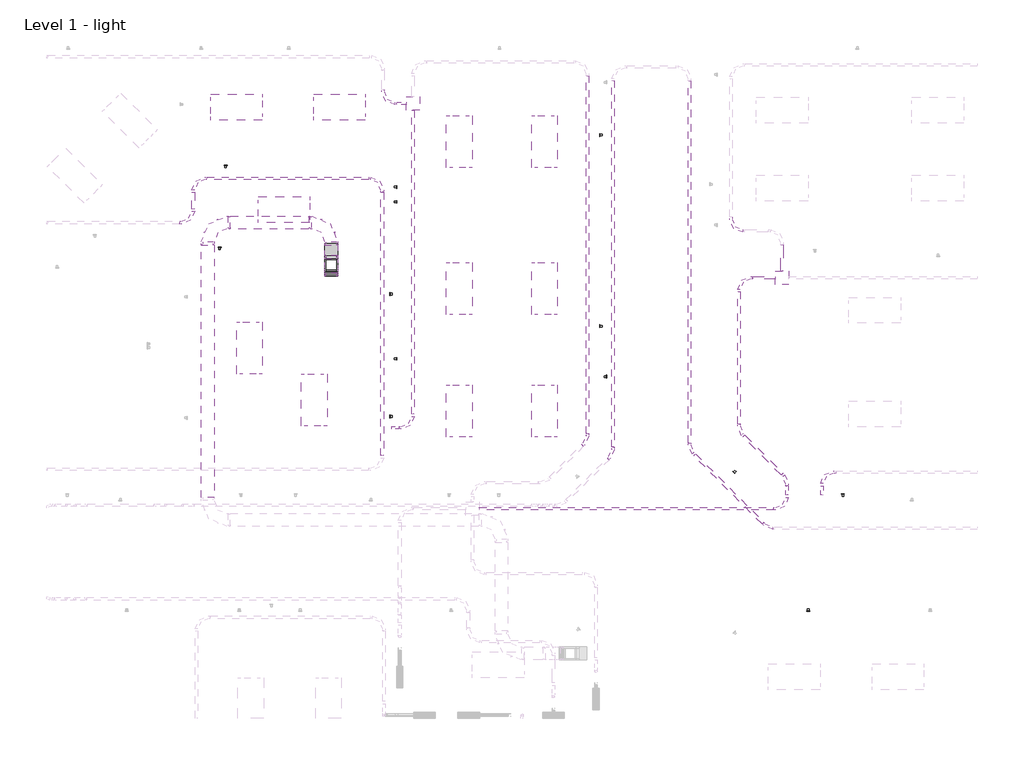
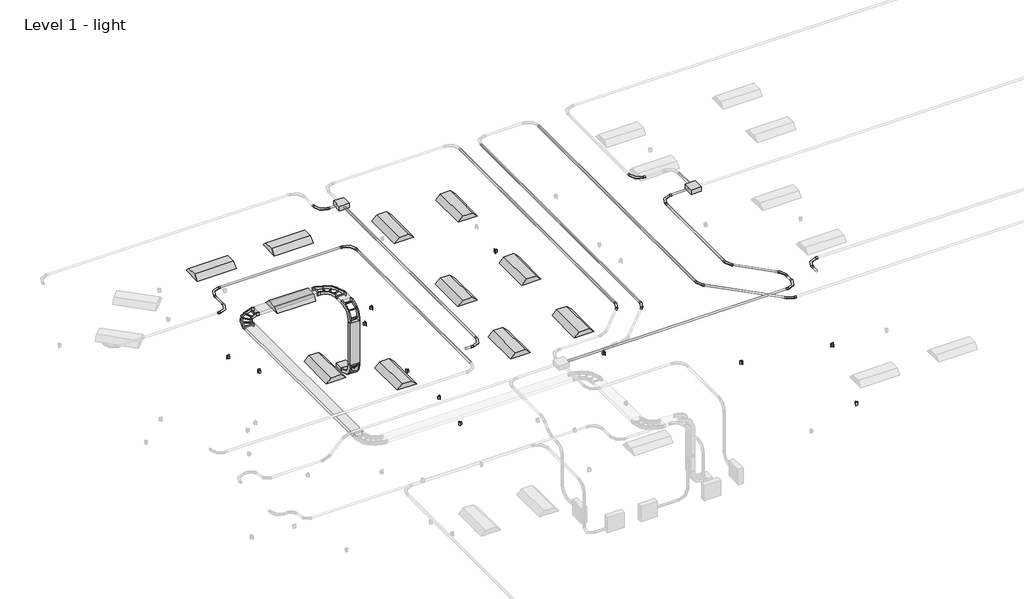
# One storey, part 4 of 5: 22 cable carrier segments, 21 cable carrier fittings, 11 light fixtures, 11 proxies, 2 switching devices.
"""IFC4 building model written with IfcOpenShell, lengths in millimetres."""

from ifc_helpers import new_model, si_unit, point, frame, frame_2d, origin, place, context, project, spatial, polyline, circle_curve, trimmed, segment, composite_curve, outline, extrude, transform, mapped, element, save
from components import m_duplex_receptacle_standard_10251bba, m_conduit_elbow_without_fittings_rnc_standard_30e86c5b, m_conduit_elbow_without_fittings_rnc_standard_89ecd00f, m_conduit_junction_box_cross_pvc_standard_3c8550d1, m_ladder_horizontal_bend_standard_b7bc1a9d, m_ladder_vertical_inside_bend_standard_9c9c70af, m_ladder_vertical_outside_bend_standard_a116f5cc, m_plain_recessed_lighting_fixture_c7d3eefa

model = new_model("IFC4")

# Units and contexts
model_context = context("Model", 3, world=origin())
ifc_project = project(units=[si_unit("LENGTHUNIT", "METRE", prefix="MILLI")], contexts=[model_context])

# Site, building, storey
site = spatial("IfcSite", under=ifc_project)
building = spatial("IfcBuilding", under=site)
storey = spatial("IfcBuildingStorey", under=building, Name="Level 1 - light", Elevation=0.0)

# Proxies
placement = place(None, origin())
m_duplex_receptacle_standard_shape = m_duplex_receptacle_standard_10251bba(model_context)
element("IfcBuildingElementProxy", 1, Name="M_Duplex Receptacle : Standard", ObjectType="M_Duplex Receptacle : Standard", at=placement, inside=storey, context=model_context, shape_type="MappedRepresentation", body=[
    mapped(m_duplex_receptacle_standard_shape, transform((-15184.0544192, 14525.4737109, 460.0), x_axis=(-1.0, 0.0, 0.0), y_axis=(0.0, 0.0, 1.0), z_axis=(0.0, 1.0, 0.0))),
])
element("IfcBuildingElementProxy", 2, Name="M_Duplex Receptacle : Standard", ObjectType="M_Duplex Receptacle : Standard", at=placement, inside=storey, context=model_context, shape_type="MappedRepresentation", body=[
    mapped(m_duplex_receptacle_standard_shape, transform((-11319.912755, 11502.323471, 460.0), x_axis=(0.0, -1.0, 0.0), y_axis=(0.0, 0.0, 1.0), z_axis=(-1.0, 0.0, 0.0))),
])
element("IfcBuildingElementProxy", 3, Name="M_Duplex Receptacle : Standard", ObjectType="M_Duplex Receptacle : Standard", at=placement, inside=storey, context=model_context, shape_type="MappedRepresentation", body=[
    mapped(m_duplex_receptacle_standard_shape, transform((-11319.912755, 8625.0169879, 460.0), x_axis=(0.0, -1.0, 0.0), y_axis=(0.0, 0.0, 1.0), z_axis=(-1.0, 0.0, 0.0))),
])
element("IfcBuildingElementProxy", 4, Name="M_Duplex Receptacle : Standard", ObjectType="M_Duplex Receptacle : Standard", at=placement, inside=storey, context=model_context, shape_type="MappedRepresentation", body=[
    mapped(m_duplex_receptacle_standard_shape, transform((-6392.312755, 15242.2575797, 460.0), x_axis=(0.0, -1.0, 0.0), y_axis=(0.0, 0.0, 1.0), z_axis=(-1.0, 0.0, 0.0))),
])
element("IfcBuildingElementProxy", 5, Name="M_Duplex Receptacle : Standard", ObjectType="M_Duplex Receptacle : Standard", at=placement, inside=storey, context=model_context, shape_type="MappedRepresentation", body=[
    mapped(m_duplex_receptacle_standard_shape, transform((-6392.312755, 10747.4935105, 460.0), x_axis=(0.0, -1.0, 0.0), y_axis=(0.0, 0.0, 1.0), z_axis=(-1.0, 0.0, 0.0))),
])
element("IfcBuildingElementProxy", 6, Name="M_Duplex Receptacle : Standard", ObjectType="M_Duplex Receptacle : Standard", at=placement, inside=storey, context=model_context, shape_type="MappedRepresentation", body=[
    mapped(m_duplex_receptacle_standard_shape, transform((-11164.337755, 9982.4272859, 460.0), x_axis=(0.0, 1.0, 0.0), y_axis=(0.0, 0.0, 1.0), z_axis=(1.0, 0.0, 0.0))),
])
element("IfcBuildingElementProxy", 7, Name="M_Duplex Receptacle : Standard", ObjectType="M_Duplex Receptacle : Standard", at=placement, inside=storey, context=model_context, shape_type="MappedRepresentation", body=[
    mapped(m_duplex_receptacle_standard_shape, transform((-11164.337755, 14021.3696282, 460.0), x_axis=(0.0, 1.0, 0.0), y_axis=(0.0, 0.0, 1.0), z_axis=(1.0, 0.0, 0.0))),
])
element("IfcBuildingElementProxy", 8, Name="M_Duplex Receptacle : Standard", ObjectType="M_Duplex Receptacle : Standard", at=placement, inside=storey, context=model_context, shape_type="MappedRepresentation", body=[
    mapped(m_duplex_receptacle_standard_shape, transform((-678.8156811, 6803.8737109, 460.0), x_axis=(-1.0, 0.0, 0.0), y_axis=(0.0, 0.0, 1.0), z_axis=(0.0, 1.0, 0.0))),
])
element("IfcBuildingElementProxy", 9, Name="M_Duplex Receptacle : Standard", ObjectType="M_Duplex Receptacle : Standard", at=placement, inside=storey, context=model_context, shape_type="MappedRepresentation", body=[
    mapped(m_duplex_receptacle_standard_shape, transform((-3240.399451, 7309.5604069, 460.0), x_axis=(0.7071067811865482, -0.7071067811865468, 0.0), y_axis=(0.0, 0.0, 1.0), z_axis=(-0.7071067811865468, -0.7071067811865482, 0.0))),
])
element("IfcBuildingElementProxy", 10, Name="M_Duplex Receptacle : Standard", ObjectType="M_Duplex Receptacle : Standard", at=placement, inside=storey, context=model_context, shape_type="MappedRepresentation", body=[
    mapped(m_duplex_receptacle_standard_shape, transform((-6236.737755, 9562.7738632, 460.0), x_axis=(0.0, 1.0, 0.0), y_axis=(0.0, 0.0, 1.0), z_axis=(1.0, 0.0, 0.0))),
])
element("IfcBuildingElementProxy", 11, Name="M_Duplex Receptacle : Standard", ObjectType="M_Duplex Receptacle : Standard", at=placement, inside=storey, context=model_context, shape_type="MappedRepresentation", body=[
    mapped(m_duplex_receptacle_standard_shape, transform((-1493.5466318, 4054.3237109, 460.0), x_axis=(1.0, 0.0, 0.0), y_axis=(0.0, 0.0, 1.0), z_axis=(0.0, -1.0, 0.0))),
])

# Cable carrier fittings
m_conduit_elbow_without_fittings_rnc_standard_shape = m_conduit_elbow_without_fittings_rnc_standard_30e86c5b(model_context)
element("IfcCableCarrierFitting", 12, ObjectType="M_Conduit Elbow - without Fittings - RNC : Standard", at=placement, inside=storey, context=model_context, shape_type="MappedRepresentation", body=[
    mapped(m_conduit_elbow_without_fittings_rnc_standard_shape, transform((-6682.4372396, 8057.7027917, 3100.0), x_axis=(0.7071067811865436, 0.7071067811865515, 0.0), y_axis=(-0.7071067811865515, 0.7071067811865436, 0.0), z_axis=(0.0, 0.0, 1.0))),
])
element("IfcCableCarrierFitting", 13, ObjectType="M_Conduit Elbow - without Fittings - RNC : Standard", at=placement, inside=storey, context=model_context, shape_type="MappedRepresentation", body=[
    mapped(m_conduit_elbow_without_fittings_rnc_standard_shape, transform((-1991.3, 7153.4116522, 3100.0), x_axis=(0.0, 1.0, 0.0), y_axis=(-1.0, 0.0, 0.0), z_axis=(0.0, 0.0, 1.0))),
])
element("IfcCableCarrierFitting", 14, ObjectType="M_Conduit Elbow - without Fittings - RNC : Standard", at=placement, inside=storey, context=model_context, shape_type="MappedRepresentation", body=[
    mapped(m_conduit_elbow_without_fittings_rnc_standard_shape, transform((-3122.6708499, 8284.7825021, 3100.0), x_axis=(0.0, -1.0, 0.0), y_axis=(1.0, 0.0, 0.0), z_axis=(0.0, 0.0, 1.0))),
])
element("IfcCableCarrierFitting", 15, ObjectType="M_Conduit Elbow - without Fittings - RNC : Standard", at=placement, inside=storey, context=model_context, shape_type="MappedRepresentation", body=[
    mapped(m_conduit_elbow_without_fittings_rnc_standard_shape, transform((-6079.718472, 7740.1344224, 3100.0), x_axis=(0.7071067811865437, 0.7071067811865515, 0.0), y_axis=(-0.7071067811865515, 0.7071067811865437, 0.0), z_axis=(0.0, 0.0, 1.0))),
])
element("IfcCableCarrierFitting", 16, ObjectType="M_Conduit Elbow - without Fittings - RNC : Standard", at=placement, inside=storey, context=model_context, shape_type="MappedRepresentation", body=[
    mapped(m_conduit_elbow_without_fittings_rnc_standard_shape, transform((-4279.718472, 7840.1344224, 3100.0), x_axis=(0.0, -1.0, 0.0), y_axis=(1.0, 0.0, 0.0), z_axis=(0.0, 0.0, 1.0))),
])
element("IfcCableCarrierFitting", 17, ObjectType="M_Conduit Elbow - without Fittings - RNC : Standard", at=placement, inside=storey, context=model_context, shape_type="MappedRepresentation", body=[
    mapped(m_conduit_elbow_without_fittings_rnc_standard_shape, transform((-2441.2408409, 6001.6567913, 3100.0), x_axis=(0.7071067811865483, -0.7071067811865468, 0.0), y_axis=(0.7071067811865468, 0.7071067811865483, 0.0), z_axis=(0.0, 0.0, 1.0))),
])
m_conduit_elbow_without_fittings_rnc_standard_2_shape = m_conduit_elbow_without_fittings_rnc_standard_89ecd00f(model_context)
element("IfcCableCarrierFitting", 18, ObjectType="M_Conduit Elbow - without Fittings - RNC : Standard", at=placement, inside=storey, context=model_context, shape_type="MappedRepresentation", body=[
    mapped(m_conduit_elbow_without_fittings_rnc_standard_2_shape, transform((-10782.4372396, 8357.7027917, 3100.0), x_axis=(1.0, 0.0, 0.0), y_axis=(0.0, 1.0, 0.0), z_axis=(0.0, 0.0, 1.0))),
])
element("IfcCableCarrierFitting", 19, ObjectType="M_Conduit Elbow - without Fittings - RNC : Standard", at=placement, inside=storey, context=model_context, shape_type="MappedRepresentation", body=[
    mapped(m_conduit_elbow_without_fittings_rnc_standard_2_shape, transform((-1991.3, 6453.4116522, 3100.0), x_axis=(1.0, 0.0, 0.0), y_axis=(0.0, 1.0, 0.0), z_axis=(0.0, 0.0, 1.0))),
])
element("IfcCableCarrierFitting", 20, ObjectType="M_Conduit Elbow - without Fittings - RNC : Standard", at=placement, inside=storey, context=model_context, shape_type="MappedRepresentation", body=[
    mapped(m_conduit_elbow_without_fittings_rnc_standard_2_shape, transform((-1175.1151652, 7317.4587363, 3100.0), x_axis=(-1.0, 0.0, 0.0), y_axis=(0.0, -1.0, 0.0), z_axis=(0.0, 0.0, 1.0))),
])
element("IfcCableCarrierFitting", 21, ObjectType="M_Conduit Elbow - without Fittings - RNC : Standard", at=placement, inside=storey, context=model_context, shape_type="MappedRepresentation", body=[
    mapped(m_conduit_elbow_without_fittings_rnc_standard_2_shape, transform((-3122.6708499, 11884.7825021, 3100.0), x_axis=(-1.0, 0.0, 0.0), y_axis=(0.0, -1.0, 0.0), z_axis=(0.0, 0.0, 1.0))),
])
element("IfcCableCarrierFitting", 22, ObjectType="M_Conduit Elbow - without Fittings - RNC : Standard", at=placement, inside=storey, context=model_context, shape_type="MappedRepresentation", body=[
    mapped(m_conduit_elbow_without_fittings_rnc_standard_2_shape, transform((-3306.5826874, 12984.7825021, 3100.0), x_axis=(0.0, -1.0, 0.0), y_axis=(1.0, 0.0, 0.0), z_axis=(0.0, 0.0, 1.0))),
])
element("IfcCableCarrierFitting", 23, ObjectType="M_Conduit Elbow - without Fittings - RNC : Standard", at=placement, inside=storey, context=model_context, shape_type="MappedRepresentation", body=[
    mapped(m_conduit_elbow_without_fittings_rnc_standard_2_shape, transform((-11482.4372396, 15983.2800092, 3100.0), x_axis=(0.0, -1.0, 0.0), y_axis=(1.0, 0.0, 0.0), z_axis=(0.0, 0.0, 1.0))),
])
element("IfcCableCarrierFitting", 24, ObjectType="M_Conduit Elbow - without Fittings - RNC : Standard", at=placement, inside=storey, context=model_context, shape_type="MappedRepresentation", body=[
    mapped(m_conduit_elbow_without_fittings_rnc_standard_2_shape, transform((-15942.4372396, 13183.2800092, 3100.0), x_axis=(1.0, 0.0, 0.0), y_axis=(0.0, 1.0, 0.0), z_axis=(0.0, 0.0, 1.0))),
])
element("IfcCableCarrierFitting", 25, ObjectType="M_Conduit Elbow - without Fittings - RNC : Standard", at=placement, inside=storey, context=model_context, shape_type="MappedRepresentation", body=[
    mapped(m_conduit_elbow_without_fittings_rnc_standard_2_shape, transform((-15942.4372396, 14218.3126046, 3100.0), x_axis=(-1.0, 0.0, 0.0), y_axis=(0.0, -1.0, 0.0), z_axis=(0.0, 0.0, 1.0))),
])
element("IfcCableCarrierFitting", 26, ObjectType="M_Conduit Elbow - without Fittings - RNC : Standard", at=placement, inside=storey, context=model_context, shape_type="MappedRepresentation", body=[
    mapped(m_conduit_elbow_without_fittings_rnc_standard_2_shape, transform((-11502.4372396, 14218.3126046, 3100.0), x_axis=(0.0, 1.0, 0.0), y_axis=(-1.0, 0.0, 0.0), z_axis=(0.0, 0.0, 1.0))),
])
m_conduit_junction_box_cross_pvc_standard_shape = m_conduit_junction_box_cross_pvc_standard_3c8550d1(model_context)
element("IfcCableCarrierFitting", 27, ObjectType="M_Conduit Junction Box - Tee - PVC : Standard", at=placement, inside=storey, context=model_context, shape_type="MappedRepresentation", body=[
    mapped(m_conduit_junction_box_cross_pvc_standard_shape, transform((-2106.5826874, 11884.7825021, 3100.0), x_axis=(-1.0, 0.0, 0.0), y_axis=(0.0, -1.0, 0.0), z_axis=(0.0, 0.0, 1.0))),
])
element("IfcCableCarrierFitting", 28, ObjectType="M_Conduit Junction Box - Tee - PVC : Standard", at=placement, inside=storey, context=model_context, shape_type="MappedRepresentation", body=[
    mapped(m_conduit_junction_box_cross_pvc_standard_shape, transform((-10782.4372396, 15983.2800092, 3100.0), x_axis=(0.0, -1.0, 0.0), y_axis=(1.0, 0.0, 0.0), z_axis=(0.0, 0.0, 1.0))),
])
m_ladder_horizontal_bend_standard_shape = m_ladder_horizontal_bend_standard_b7bc1a9d(model_context)
element("IfcCableCarrierFitting", 29, ObjectType="M_Ladder Horizontal Bend : Standard", at=placement, inside=storey, context=model_context, shape_type="MappedRepresentation", body=[
    mapped(m_ladder_horizontal_bend_standard_shape, transform((-15600.0321645, 13184.7825021, 2750.0), x_axis=(-1.0, 0.0, 0.0), y_axis=(0.0, -1.0, 0.0), z_axis=(0.0, 0.0, 1.0))),
])
element("IfcCableCarrierFitting", 30, ObjectType="M_Ladder Horizontal Bend : Standard", at=placement, inside=storey, context=model_context, shape_type="MappedRepresentation", body=[
    mapped(m_ladder_horizontal_bend_standard_shape, transform((-12700.0321645, 13184.7825021, 2750.0), x_axis=(0.0, 1.0, 0.0), y_axis=(-1.0, 0.0, 0.0), z_axis=(0.0, 0.0, 1.0))),
])
m_ladder_vertical_inside_bend_standard_shape = m_ladder_vertical_inside_bend_standard_9c9c70af(model_context)
element("IfcCableCarrierFitting", 31, ObjectType="M_Ladder Vertical Inside Bend : Standard", at=placement, inside=storey, context=model_context, shape_type="MappedRepresentation", body=[
    mapped(m_ladder_vertical_inside_bend_standard_shape, transform((-12700.0321645, 11972.3825901, 500.0), x_axis=(0.0, 0.0, -1.0), y_axis=(0.0, 1.0, 0.0), z_axis=(1.0, 0.0, 0.0))),
])
m_ladder_vertical_outside_bend_standard_shape = m_ladder_vertical_outside_bend_standard_a116f5cc(model_context)
element("IfcCableCarrierFitting", 32, ObjectType="M_Ladder Vertical Outside Bend : Standard", at=placement, inside=storey, context=model_context, shape_type="MappedRepresentation", body=[
    mapped(m_ladder_vertical_outside_bend_standard_shape, transform((-12700.0321645, 11972.3825901, 2750.0), x_axis=(0.0, -1.0, 0.0), y_axis=(0.0, 0.0, -1.0), z_axis=(1.0, 0.0, 0.0))),
])

# Cable carrier segments
element("IfcCableCarrierSegment", 33, ObjectType="Rigid Nonmetallic Conduit (RNC Sch 40)", at=placement, inside=storey, context=model_context, shape_type="SweptSolid", body=[
    extrude(outline(composite_curve([segment(trimmed(circle_curve(frame_2d((3100.0, -6682.4372396)), 30.165), [point((3100.0, -6652.2722396))], [point((3130.165, -6682.4372396))], False, "CARTESIAN"), True, "CONTINUOUS"), segment(trimmed(circle_curve(frame_2d((3100.0, -6682.4372396)), 30.165), [point((3130.165, -6682.4372396))], [point((3100.0, -6712.6022396))], False, "CARTESIAN"), True, "CONTINUOUS"), segment(trimmed(circle_curve(frame_2d((3100.0, -6682.4372396)), 30.165), [point((3100.0, -6712.6022396))], [point((3069.835, -6682.4372396))], False, "CARTESIAN"), True, "CONTINUOUS"), segment(trimmed(circle_curve(frame_2d((3100.0, -6682.4372396)), 30.165), [point((3069.835, -6682.4372396))], [point((3100.0, -6652.2722396))], False, "CARTESIAN"), True, "CONTINUOUS")], self_intersect=False)), frame((0.0, 8220.9452053, 0.0), z_axis=(0.0, 1.0, 0.0), x_axis=(0.0, 0.0, 1.0)), (0.0, 0.0, 1.0), 8414.4975864),
])
element("IfcCableCarrierSegment", 34, ObjectType="Rigid Nonmetallic Conduit (RNC Sch 40)", at=placement, inside=storey, context=model_context, shape_type="SweptSolid", body=[
    extrude(outline(composite_curve([segment(trimmed(circle_curve(frame_2d((3100.0, -10782.4372396)), 30.165), [point((3100.0, -10812.6022396))], [point((3069.835, -10782.4372396))], False, "CARTESIAN"), True, "CONTINUOUS"), segment(trimmed(circle_curve(frame_2d((3100.0, -10782.4372396)), 30.165), [point((3069.835, -10782.4372396))], [point((3100.0, -10752.2722396))], False, "CARTESIAN"), True, "CONTINUOUS"), segment(trimmed(circle_curve(frame_2d((3100.0, -10782.4372396)), 30.165), [point((3100.0, -10752.2722396))], [point((3130.165, -10782.4372396))], False, "CARTESIAN"), True, "CONTINUOUS"), segment(trimmed(circle_curve(frame_2d((3100.0, -10782.4372396)), 30.165), [point((3130.165, -10782.4372396))], [point((3100.0, -10812.6022396))], False, "CARTESIAN"), True, "CONTINUOUS")], self_intersect=False)), frame((0.0, 8679.9627917, 0.0), z_axis=(0.0, 1.0, 0.0), x_axis=(0.0, 0.0, 1.0)), (0.0, 0.0, 1.0), 7144.3172176),
])
element("IfcCableCarrierSegment", 35, ObjectType="Rigid Nonmetallic Conduit (RNC Sch 40)", at=placement, inside=storey, context=model_context, shape_type="SweptSolid", body=[
    extrude(outline(composite_curve([segment(trimmed(circle_curve(frame_2d((8357.7027917, 3100.0)), 30.165), [point((8387.8677917, 3100.0))], [point((8357.7027917, 3069.835))], False, "CARTESIAN"), True, "CONTINUOUS"), segment(trimmed(circle_curve(frame_2d((8357.7027917, 3100.0)), 30.165), [point((8357.7027917, 3069.835))], [point((8327.5377917, 3100.0))], False, "CARTESIAN"), True, "CONTINUOUS"), segment(trimmed(circle_curve(frame_2d((8357.7027917, 3100.0)), 30.165), [point((8327.5377917, 3100.0))], [point((8357.7027917, 3130.165))], False, "CARTESIAN"), True, "CONTINUOUS"), segment(trimmed(circle_curve(frame_2d((8357.7027917, 3100.0)), 30.165), [point((8357.7027917, 3130.165))], [point((8387.8677917, 3100.0))], False, "CARTESIAN"), True, "CONTINUOUS")], self_intersect=False)), frame((-11282.4372396, 0.0, 0.0), z_axis=(1.0, 0.0, 0.0), x_axis=(0.0, 1.0, 0.0)), (0.0, 0.0, 1.0), 177.74),
])
element("IfcCableCarrierSegment", 36, ObjectType="Rigid Nonmetallic Conduit (RNC Sch 40)", at=placement, inside=storey, context=model_context, shape_type="SweptSolid", body=[
    extrude(outline(composite_curve([segment(trimmed(circle_curve(frame_2d((6453.4116522, 3100.0)), 30.165), [point((6423.2466522, 3100.0))], [point((6453.4116522, 3130.165))], False, "CARTESIAN"), True, "CONTINUOUS"), segment(trimmed(circle_curve(frame_2d((6453.4116522, 3100.0)), 30.165), [point((6453.4116522, 3130.165))], [point((6483.5766522, 3100.0))], False, "CARTESIAN"), True, "CONTINUOUS"), segment(trimmed(circle_curve(frame_2d((6453.4116522, 3100.0)), 30.165), [point((6483.5766522, 3100.0))], [point((6453.4116522, 3069.835))], False, "CARTESIAN"), True, "CONTINUOUS"), segment(trimmed(circle_curve(frame_2d((6453.4116522, 3100.0)), 30.165), [point((6453.4116522, 3069.835))], [point((6423.2466522, 3100.0))], False, "CARTESIAN"), True, "CONTINUOUS")], self_intersect=False)), frame((-9220.2, 0.0, 0.0), z_axis=(1.0, 0.0, 0.0), x_axis=(0.0, 1.0, 0.0)), (0.0, 0.0, 1.0), 6906.64),
])
element("IfcCableCarrierSegment", 37, ObjectType="Rigid Nonmetallic Conduit (RNC Sch 40)", at=placement, inside=storey, context=model_context, shape_type="SweptSolid", body=[
    extrude(outline(composite_curve([segment(trimmed(circle_curve(frame_2d((3100.0, -1991.3)), 30.165), [point((3100.0, -1961.135))], [point((3130.165, -1991.3))], False, "CARTESIAN"), True, "CONTINUOUS"), segment(trimmed(circle_curve(frame_2d((3100.0, -1991.3)), 30.165), [point((3130.165, -1991.3))], [point((3100.0, -2021.465))], False, "CARTESIAN"), True, "CONTINUOUS"), segment(trimmed(circle_curve(frame_2d((3100.0, -1991.3)), 30.165), [point((3100.0, -2021.465))], [point((3069.835, -1991.3))], False, "CARTESIAN"), True, "CONTINUOUS"), segment(trimmed(circle_curve(frame_2d((3100.0, -1991.3)), 30.165), [point((3069.835, -1991.3))], [point((3100.0, -1961.135))], False, "CARTESIAN"), True, "CONTINUOUS")], self_intersect=False)), frame((0.0, 6775.6716522, 0.0), z_axis=(0.0, 1.0, 0.0), x_axis=(0.0, 0.0, 1.0)), (0.0, 0.0, 1.0), 214.4975864),
])
element("IfcCableCarrierSegment", 38, ObjectType="Rigid Nonmetallic Conduit (RNC Sch 40)", at=placement, inside=storey, context=model_context, shape_type="SweptSolid", body=[
    extrude(outline(composite_curve([segment(trimmed(circle_curve(frame_2d((0.0, 30.165)), 30.165), [point((30.1650001, 30.165))], [point((0.0, 0.0))], False, "CARTESIAN"), True, "CONTINUOUS"), segment(trimmed(circle_curve(frame_2d((0.0, 30.165)), 30.165), [point((0.0, 0.0))], [point((-30.1649999, 30.165))], False, "CARTESIAN"), True, "CONTINUOUS"), segment(trimmed(circle_curve(frame_2d((0.0, 30.165)), 30.165), [point((-30.1649999, 30.165))], [point((0.0, 60.33))], False, "CARTESIAN"), True, "CONTINUOUS"), segment(trimmed(circle_curve(frame_2d((0.0, 30.165)), 30.165), [point((0.0, 60.33))], [point((30.1650001, 30.165))], False, "CARTESIAN"), True, "CONTINUOUS")], self_intersect=False)), frame((-2106.7298177, 7268.8414698, 3130.165), z_axis=(-0.7071067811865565, 0.7071067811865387, 0.0), x_axis=(0.7071067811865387, 0.7071067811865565, 0.0)), (0.0, 0.0, 1.0), 1273.5151727),
])
element("IfcCableCarrierSegment", 39, ObjectType="Rigid Nonmetallic Conduit (RNC Sch 40)", at=placement, inside=storey, context=model_context, shape_type="SweptSolid", body=[
    extrude(outline(composite_curve([segment(trimmed(circle_curve(frame_2d((3100.0, -3122.6708499)), 30.165), [point((3100.0, -3092.5058499))], [point((3130.165, -3122.6708499))], False, "CARTESIAN"), True, "CONTINUOUS"), segment(trimmed(circle_curve(frame_2d((3100.0, -3122.6708499)), 30.165), [point((3130.165, -3122.6708499))], [point((3100.0, -3152.8358499))], False, "CARTESIAN"), True, "CONTINUOUS"), segment(trimmed(circle_curve(frame_2d((3100.0, -3122.6708499)), 30.165), [point((3100.0, -3152.8358499))], [point((3069.835, -3122.6708499))], False, "CARTESIAN"), True, "CONTINUOUS"), segment(trimmed(circle_curve(frame_2d((3100.0, -3122.6708499)), 30.165), [point((3069.835, -3122.6708499))], [point((3100.0, -3092.5058499))], False, "CARTESIAN"), True, "CONTINUOUS")], self_intersect=False)), frame((0.0, 8448.0249157, 0.0), z_axis=(0.0, 1.0, 0.0), x_axis=(0.0, 0.0, 1.0)), (0.0, 0.0, 1.0), 3114.4975864),
])
element("IfcCableCarrierSegment", 40, ObjectType="Rigid Nonmetallic Conduit (RNC Sch 40)", at=placement, inside=storey, context=model_context, shape_type="SweptSolid", body=[
    extrude(outline(composite_curve([segment(trimmed(circle_curve(frame_2d((11884.7825021, 3100.0)), 30.165), [point((11914.9475021, 3100.0))], [point((11884.7825021, 3069.835))], False, "CARTESIAN"), True, "CONTINUOUS"), segment(trimmed(circle_curve(frame_2d((11884.7825021, 3100.0)), 30.165), [point((11884.7825021, 3069.835))], [point((11854.6175021, 3100.0))], False, "CARTESIAN"), True, "CONTINUOUS"), segment(trimmed(circle_curve(frame_2d((11884.7825021, 3100.0)), 30.165), [point((11854.6175021, 3100.0))], [point((11884.7825021, 3130.165))], False, "CARTESIAN"), True, "CONTINUOUS"), segment(trimmed(circle_curve(frame_2d((11884.7825021, 3100.0)), 30.165), [point((11884.7825021, 3130.165))], [point((11914.9475021, 3100.0))], False, "CARTESIAN"), True, "CONTINUOUS")], self_intersect=False)), frame((-2800.4108499, 0.0, 0.0), z_axis=(1.0, 0.0, 0.0), x_axis=(0.0, 1.0, 0.0)), (0.0, 0.0, 1.0), 534.8281625),
])
element("IfcCableCarrierSegment", 41, ObjectType="Rigid Nonmetallic Conduit (RNC Sch 40)", at=placement, inside=storey, context=model_context, shape_type="SweptSolid", body=[
    extrude(outline(composite_curve([segment(trimmed(circle_curve(frame_2d((3100.0, -1175.1151652)), 30.165), [point((3100.0, -1205.2801652))], [point((3069.835, -1175.1151652))], False, "CARTESIAN"), True, "CONTINUOUS"), segment(trimmed(circle_curve(frame_2d((3100.0, -1175.1151652)), 30.165), [point((3069.835, -1175.1151652))], [point((3100.0, -1144.9501652))], False, "CARTESIAN"), True, "CONTINUOUS"), segment(trimmed(circle_curve(frame_2d((3100.0, -1175.1151652)), 30.165), [point((3100.0, -1144.9501652))], [point((3130.165, -1175.1151652))], False, "CARTESIAN"), True, "CONTINUOUS"), segment(trimmed(circle_curve(frame_2d((3100.0, -1175.1151652)), 30.165), [point((3130.165, -1175.1151652))], [point((3100.0, -1205.2801652))], False, "CARTESIAN"), True, "CONTINUOUS")], self_intersect=False)), frame((0.0, 6777.4587363, 0.0), z_axis=(0.0, 1.0, 0.0), x_axis=(0.0, 0.0, 1.0)), (0.0, 0.0, 1.0), 217.74),
])
element("IfcCableCarrierSegment", 42, ObjectType="Rigid Nonmetallic Conduit (RNC Sch 40)", at=placement, inside=storey, context=model_context, shape_type="SweptSolid", body=[
    extrude(outline(composite_curve([segment(trimmed(circle_curve(frame_2d((3100.0, -2106.5826874)), 30.165), [point((3100.0, -2076.4176874))], [point((3130.165, -2106.5826874))], False, "CARTESIAN"), True, "CONTINUOUS"), segment(trimmed(circle_curve(frame_2d((3100.0, -2106.5826874)), 30.165), [point((3130.165, -2106.5826874))], [point((3100.0, -2136.7476874))], False, "CARTESIAN"), True, "CONTINUOUS"), segment(trimmed(circle_curve(frame_2d((3100.0, -2106.5826874)), 30.165), [point((3100.0, -2136.7476874))], [point((3069.835, -2106.5826874))], False, "CARTESIAN"), True, "CONTINUOUS"), segment(trimmed(circle_curve(frame_2d((3100.0, -2106.5826874)), 30.165), [point((3069.835, -2106.5826874))], [point((3100.0, -2076.4176874))], False, "CARTESIAN"), True, "CONTINUOUS")], self_intersect=False)), frame((0.0, 12043.7825021, 0.0), z_axis=(0.0, 1.0, 0.0), x_axis=(0.0, 0.0, 1.0)), (0.0, 0.0, 1.0), 618.74),
])
element("IfcCableCarrierSegment", 43, ObjectType="Rigid Nonmetallic Conduit (RNC Sch 40)", at=placement, inside=storey, context=model_context, shape_type="SweptSolid", body=[
    extrude(outline(composite_curve([segment(trimmed(circle_curve(frame_2d((15983.2800092, 3100.0)), 30.165), [point((16013.4450092, 3100.0))], [point((15983.2800092, 3069.835))], False, "CARTESIAN"), True, "CONTINUOUS"), segment(trimmed(circle_curve(frame_2d((15983.2800092, 3100.0)), 30.165), [point((15983.2800092, 3069.835))], [point((15953.1150092, 3100.0))], False, "CARTESIAN"), True, "CONTINUOUS"), segment(trimmed(circle_curve(frame_2d((15983.2800092, 3100.0)), 30.165), [point((15953.1150092, 3100.0))], [point((15983.2800092, 3130.165))], False, "CARTESIAN"), True, "CONTINUOUS"), segment(trimmed(circle_curve(frame_2d((15983.2800092, 3100.0)), 30.165), [point((15983.2800092, 3130.165))], [point((16013.4450092, 3100.0))], False, "CARTESIAN"), True, "CONTINUOUS")], self_intersect=False)), frame((-11160.1772396, 0.0, 0.0), z_axis=(1.0, 0.0, 0.0), x_axis=(0.0, 1.0, 0.0)), (0.0, 0.0, 1.0), 218.74),
])
element("IfcCableCarrierSegment", 44, ObjectType="Rigid Nonmetallic Conduit (RNC Sch 40)", at=placement, inside=storey, context=model_context, shape_type="SweptSolid", body=[
    extrude(outline(composite_curve([segment(trimmed(circle_curve(frame_2d((3100.0, -15942.4372396)), 30.165), [point((3100.0, -15912.2722396))], [point((3130.165, -15942.4372396))], False, "CARTESIAN"), True, "CONTINUOUS"), segment(trimmed(circle_curve(frame_2d((3100.0, -15942.4372396)), 30.165), [point((3130.165, -15942.4372396))], [point((3100.0, -15972.6022396))], False, "CARTESIAN"), True, "CONTINUOUS"), segment(trimmed(circle_curve(frame_2d((3100.0, -15942.4372396)), 30.165), [point((3100.0, -15972.6022396))], [point((3069.835, -15942.4372396))], False, "CARTESIAN"), True, "CONTINUOUS"), segment(trimmed(circle_curve(frame_2d((3100.0, -15942.4372396)), 30.165), [point((3069.835, -15942.4372396))], [point((3100.0, -15912.2722396))], False, "CARTESIAN"), True, "CONTINUOUS")], self_intersect=False)), frame((0.0, 13505.5400092, 0.0), z_axis=(0.0, 1.0, 0.0), x_axis=(0.0, 0.0, 1.0)), (0.0, 0.0, 1.0), 390.5125953),
])
element("IfcCableCarrierSegment", 45, ObjectType="Rigid Nonmetallic Conduit (RNC Sch 40)", at=placement, inside=storey, context=model_context, shape_type="SweptSolid", body=[
    extrude(outline(composite_curve([segment(trimmed(circle_curve(frame_2d((14218.3126046, 3100.0)), 30.165), [point((14188.1476046, 3100.0))], [point((14218.3126046, 3130.165))], False, "CARTESIAN"), True, "CONTINUOUS"), segment(trimmed(circle_curve(frame_2d((14218.3126046, 3100.0)), 30.165), [point((14218.3126046, 3130.165))], [point((14248.4776046, 3100.0))], False, "CARTESIAN"), True, "CONTINUOUS"), segment(trimmed(circle_curve(frame_2d((14218.3126046, 3100.0)), 30.165), [point((14248.4776046, 3100.0))], [point((14218.3126046, 3069.835))], False, "CARTESIAN"), True, "CONTINUOUS"), segment(trimmed(circle_curve(frame_2d((14218.3126046, 3100.0)), 30.165), [point((14218.3126046, 3069.835))], [point((14188.1476046, 3100.0))], False, "CARTESIAN"), True, "CONTINUOUS")], self_intersect=False)), frame((-15620.1772396, 0.0, 0.0), z_axis=(1.0, 0.0, 0.0), x_axis=(0.0, 1.0, 0.0)), (0.0, 0.0, 1.0), 3795.48),
])
element("IfcCableCarrierSegment", 46, ObjectType="Rigid Nonmetallic Conduit (RNC Sch 40)", at=placement, inside=storey, context=model_context, shape_type="SweptSolid", body=[
    extrude(outline(composite_curve([segment(trimmed(circle_curve(frame_2d((3100.0, -11502.4372396)), 30.165), [point((3100.0, -11532.6022396))], [point((3069.835, -11502.4372396))], False, "CARTESIAN"), True, "CONTINUOUS"), segment(trimmed(circle_curve(frame_2d((3100.0, -11502.4372396)), 30.165), [point((3069.835, -11502.4372396))], [point((3100.0, -11472.2722396))], False, "CARTESIAN"), True, "CONTINUOUS"), segment(trimmed(circle_curve(frame_2d((3100.0, -11502.4372396)), 30.165), [point((3100.0, -11472.2722396))], [point((3130.165, -11502.4372396))], False, "CARTESIAN"), True, "CONTINUOUS"), segment(trimmed(circle_curve(frame_2d((3100.0, -11502.4372396)), 30.165), [point((3130.165, -11502.4372396))], [point((3100.0, -11532.6022396))], False, "CARTESIAN"), True, "CONTINUOUS")], self_intersect=False)), frame((0.0, 7705.5400092, 0.0), z_axis=(0.0, 1.0, 0.0), x_axis=(0.0, 0.0, 1.0)), (0.0, 0.0, 1.0), 6190.5125953),
])
element("IfcCableCarrierSegment", 47, ObjectType="Rigid Nonmetallic Conduit (RNC Sch 40)", at=placement, inside=storey, context=model_context, shape_type="SweptSolid", body=[
    extrude(outline(composite_curve([segment(trimmed(circle_curve(frame_2d((3100.0, -6079.718472)), 30.165), [point((3100.0, -6049.553472))], [point((3130.165, -6079.718472))], False, "CARTESIAN"), True, "CONTINUOUS"), segment(trimmed(circle_curve(frame_2d((3100.0, -6079.718472)), 30.165), [point((3130.165, -6079.718472))], [point((3100.0, -6109.883472))], False, "CARTESIAN"), True, "CONTINUOUS"), segment(trimmed(circle_curve(frame_2d((3100.0, -6079.718472)), 30.165), [point((3100.0, -6109.883472))], [point((3069.835, -6079.718472))], False, "CARTESIAN"), True, "CONTINUOUS"), segment(trimmed(circle_curve(frame_2d((3100.0, -6079.718472)), 30.165), [point((3069.835, -6079.718472))], [point((3100.0, -6049.553472))], False, "CARTESIAN"), True, "CONTINUOUS")], self_intersect=False)), frame((0.0, 7903.376836, 0.0), z_axis=(0.0, 1.0, 0.0), x_axis=(0.0, 0.0, 1.0)), (0.0, 0.0, 1.0), 8614.4975864),
])
element("IfcCableCarrierSegment", 48, ObjectType="Rigid Nonmetallic Conduit (RNC Sch 40)", at=placement, inside=storey, context=model_context, shape_type="SweptSolid", body=[
    extrude(outline(composite_curve([segment(trimmed(circle_curve(frame_2d((3100.0, -4279.718472)), 30.165), [point((3100.0, -4309.883472))], [point((3069.835, -4279.718472))], False, "CARTESIAN"), True, "CONTINUOUS"), segment(trimmed(circle_curve(frame_2d((3100.0, -4279.718472)), 30.165), [point((3069.835, -4279.718472))], [point((3100.0, -4249.553472))], False, "CARTESIAN"), True, "CONTINUOUS"), segment(trimmed(circle_curve(frame_2d((3100.0, -4279.718472)), 30.165), [point((3100.0, -4249.553472))], [point((3130.165, -4279.718472))], False, "CARTESIAN"), True, "CONTINUOUS"), segment(trimmed(circle_curve(frame_2d((3100.0, -4279.718472)), 30.165), [point((3130.165, -4279.718472))], [point((3100.0, -4309.883472))], False, "CARTESIAN"), True, "CONTINUOUS")], self_intersect=False)), frame((0.0, 8003.376836, 0.0), z_axis=(0.0, 1.0, 0.0), x_axis=(0.0, 0.0, 1.0)), (0.0, 0.0, 1.0), 8514.4975864),
])
element("IfcCableCarrierSegment", 49, ObjectType="Rigid Nonmetallic Conduit (RNC Sch 40)", at=placement, inside=storey, context=model_context, shape_type="SweptSolid", body=[
    extrude(outline(composite_curve([segment(trimmed(circle_curve(frame_2d((0.0, -30.165)), 30.165), [point((-30.165, -30.165))], [point((0.0, 0.0))], False, "CARTESIAN"), True, "CONTINUOUS"), segment(trimmed(circle_curve(frame_2d((0.0, -30.165)), 30.165), [point((0.0, 0.0))], [point((30.165, -30.165))], False, "CARTESIAN"), True, "CONTINUOUS"), segment(trimmed(circle_curve(frame_2d((0.0, -30.165)), 30.165), [point((30.165, -30.165))], [point((0.0, -60.33))], False, "CARTESIAN"), True, "CONTINUOUS"), segment(trimmed(circle_curve(frame_2d((0.0, -30.165)), 30.165), [point((0.0, -60.33))], [point((-30.165, -30.165))], False, "CARTESIAN"), True, "CONTINUOUS")], self_intersect=False)), frame((-2556.6706586, 6117.086609, 3069.835), z_axis=(-0.7071067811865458, 0.7071067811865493, 0.0), x_axis=(0.7071067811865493, 0.7071067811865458, 0.0)), (0.0, 0.0, 1.0), 2273.5151727),
])
element("IfcCableCarrierSegment", 50, ObjectType="Ladder Cable Tray", at=placement, inside=storey, context=model_context, shape_type="SweptSolid", body=[
    extrude(outline(polyline([(-15450.0321645, 6725.778284), (-15750.0321645, 6725.778284), (-15750.0321645, 12654.7825021), (-15450.0321645, 12654.7825021), (-15450.0321645, 6725.778284)])), frame((0.0, 0.0, 2700.0), z_axis=(0.0, 0.0, 1.0), x_axis=(1.0, 0.0, 0.0)), (0.0, 0.0, 1.0), 100.0),
])
element("IfcCableCarrierSegment", 51, ObjectType="Ladder Cable Tray", at=placement, inside=storey, context=model_context, shape_type="SweptSolid", body=[
    extrude(outline(polyline([(-15070.0321645, 13034.7825021), (-15070.0321645, 13334.7825021), (-13230.0321645, 13334.7825021), (-13230.0321645, 13034.7825021), (-15070.0321645, 13034.7825021)])), frame((0.0, 0.0, 2700.0), z_axis=(0.0, 0.0, 1.0), x_axis=(1.0, 0.0, 0.0)), (0.0, 0.0, 1.0), 100.0),
])
element("IfcCableCarrierSegment", 52, ObjectType="Ladder Cable Tray", at=placement, inside=storey, context=model_context, shape_type="SweptSolid", body=[
    extrude(outline(polyline([(-12550.0321645, 12402.3825901), (-12850.0321645, 12402.3825901), (-12850.0321645, 12684.7825021), (-12550.0321645, 12684.7825021), (-12550.0321645, 12402.3825901)])), frame((0.0, 0.0, 450.0), z_axis=(0.0, 0.0, 1.0), x_axis=(1.0, 0.0, 0.0)), (0.0, 0.0, 1.0), 100.0),
])
element("IfcCableCarrierSegment", 53, ObjectType="Ladder Cable Tray", at=placement, inside=storey, context=model_context, shape_type="SweptSolid", body=[
    extrude(outline(polyline([(-12850.0321645, 12654.7825021), (-12550.0321645, 12654.7825021), (-12550.0321645, 12402.3825901), (-12850.0321645, 12402.3825901), (-12850.0321645, 12654.7825021)])), frame((0.0, 0.0, 2700.0), z_axis=(0.0, 0.0, 1.0), x_axis=(1.0, 0.0, 0.0)), (0.0, 0.0, 1.0), 100.0),
])
element("IfcCableCarrierSegment", 54, ObjectType="Ladder Cable Tray", at=placement, inside=storey, context=model_context, shape_type="SweptSolid", body=[
    extrude(outline(polyline([(-12550.0321645, 11922.3825901), (-12850.0321645, 11922.3825901), (-12850.0321645, 12022.3825901), (-12550.0321645, 12022.3825901), (-12550.0321645, 11922.3825901)])), frame((0.0, 0.0, 930.0), z_axis=(0.0, 0.0, 1.0), x_axis=(1.0, 0.0, 0.0)), (0.0, 0.0, 1.0), 1390.0),
])

# Light fixtures
m_plain_recessed_lighting_fixture_shape = m_plain_recessed_lighting_fixture_c7d3eefa(model_context)
element("IfcLightFixture", 55, ObjectType="M_Plain Recessed Lighting Fixture : tubelight", at=placement, inside=storey, context=model_context, shape_type="MappedRepresentation", body=[
    mapped(m_plain_recessed_lighting_fixture_shape, transform((-15534.625255, 15592.5737109, 2438.4), x_axis=(1.0, 0.0, 0.0), y_axis=(0.0, -1.0, 0.0), z_axis=(0.0, 0.0, -1.0))),
])
element("IfcLightFixture", 56, ObjectType="M_Plain Recessed Lighting Fixture : tubelight", at=placement, inside=storey, context=model_context, shape_type="MappedRepresentation", body=[
    mapped(m_plain_recessed_lighting_fixture_shape, transform((-13115.5240831, 15592.5737109, 2438.4), x_axis=(1.0, 0.0, 0.0), y_axis=(0.0, -1.0, 0.0), z_axis=(0.0, 0.0, -1.0))),
])
element("IfcLightFixture", 57, ObjectType="M_Plain Recessed Lighting Fixture : tubelight", at=placement, inside=storey, context=model_context, shape_type="MappedRepresentation", body=[
    mapped(m_plain_recessed_lighting_fixture_shape, transform((-14419.8522081, 13181.1612109, 2438.4), x_axis=(1.0, 0.0, 0.0), y_axis=(0.0, -1.0, 0.0), z_axis=(0.0, 0.0, -1.0))),
])
element("IfcLightFixture", 58, ObjectType="M_Plain Recessed Lighting Fixture : tubelight", at=placement, inside=storey, context=model_context, shape_type="MappedRepresentation", body=[
    mapped(m_plain_recessed_lighting_fixture_shape, transform((-14925.125255, 10844.0612109, 2438.4), x_axis=(0.0, -1.0, 0.0), y_axis=(-1.0, 0.0, 0.0), z_axis=(0.0, 0.0, -1.0))),
])
element("IfcLightFixture", 59, ObjectType="M_Plain Recessed Lighting Fixture : tubelight", at=placement, inside=storey, context=model_context, shape_type="MappedRepresentation", body=[
    mapped(m_plain_recessed_lighting_fixture_shape, transform((-13405.925255, 9624.8612109, 2438.4), x_axis=(0.0, -1.0, 0.0), y_axis=(-1.0, 0.0, 0.0), z_axis=(0.0, 0.0, -1.0))),
])
element("IfcLightFixture", 60, ObjectType="M_Plain Recessed Lighting Fixture : tubelight", at=placement, inside=storey, context=model_context, shape_type="MappedRepresentation", body=[
    mapped(m_plain_recessed_lighting_fixture_shape, transform((-9997.525255, 15693.8737109, 2438.4), x_axis=(0.0, -1.0, 0.0), y_axis=(-1.0, 0.0, 0.0), z_axis=(0.0, 0.0, -1.0))),
])
element("IfcLightFixture", 61, ObjectType="M_Plain Recessed Lighting Fixture : tubelight", at=placement, inside=storey, context=model_context, shape_type="MappedRepresentation", body=[
    mapped(m_plain_recessed_lighting_fixture_shape, transform((-7995.052755, 15693.8737109, 2438.4), x_axis=(0.0, -1.0, 0.0), y_axis=(-1.0, 0.0, 0.0), z_axis=(0.0, 0.0, -1.0))),
])
element("IfcLightFixture", 62, ObjectType="M_Plain Recessed Lighting Fixture : tubelight", at=placement, inside=storey, context=model_context, shape_type="MappedRepresentation", body=[
    mapped(m_plain_recessed_lighting_fixture_shape, transform((-9997.525255, 12240.535694, 2438.4), x_axis=(0.0, -1.0, 0.0), y_axis=(-1.0, 0.0, 0.0), z_axis=(0.0, 0.0, -1.0))),
])
element("IfcLightFixture", 63, ObjectType="M_Plain Recessed Lighting Fixture : tubelight", at=placement, inside=storey, context=model_context, shape_type="MappedRepresentation", body=[
    mapped(m_plain_recessed_lighting_fixture_shape, transform((-7995.052755, 12240.535694, 2438.4), x_axis=(0.0, -1.0, 0.0), y_axis=(-1.0, 0.0, 0.0), z_axis=(0.0, 0.0, -1.0))),
])
element("IfcLightFixture", 64, ObjectType="M_Plain Recessed Lighting Fixture : tubelight", at=placement, inside=storey, context=model_context, shape_type="MappedRepresentation", body=[
    mapped(m_plain_recessed_lighting_fixture_shape, transform((-7995.052755, 9363.1700558, 2438.4), x_axis=(0.0, -1.0, 0.0), y_axis=(-1.0, 0.0, 0.0), z_axis=(0.0, 0.0, -1.0))),
])
element("IfcLightFixture", 65, ObjectType="M_Plain Recessed Lighting Fixture : tubelight", at=placement, inside=storey, context=model_context, shape_type="MappedRepresentation", body=[
    mapped(m_plain_recessed_lighting_fixture_shape, transform((-9997.525255, 9363.1700558, 2438.4), x_axis=(0.0, -1.0, 0.0), y_axis=(-1.0, 0.0, 0.0), z_axis=(0.0, 0.0, -1.0))),
])

# Switching devices
element("IfcSwitchingDevice", 66, ObjectType="M_Lighting Switches : Door", at=placement, inside=storey, context=model_context, shape_type="MappedRepresentation", body=[
    mapped(m_duplex_receptacle_standard_shape, transform((-15322.6754614, 12601.4237109, 1200.0), x_axis=(-1.0, 0.0, 0.0), y_axis=(0.0, 0.0, 1.0), z_axis=(0.0, 1.0, 0.0))),
])
element("IfcSwitchingDevice", 67, ObjectType="M_Lighting Switches : Door", at=placement, inside=storey, context=model_context, shape_type="MappedRepresentation", body=[
    mapped(m_duplex_receptacle_standard_shape, transform((-11164.337755, 13670.7950727, 1200.0), x_axis=(0.0, 1.0, 0.0), y_axis=(0.0, 0.0, 1.0), z_axis=(1.0, 0.0, 0.0))),
])

save(model, "model.ifc")
